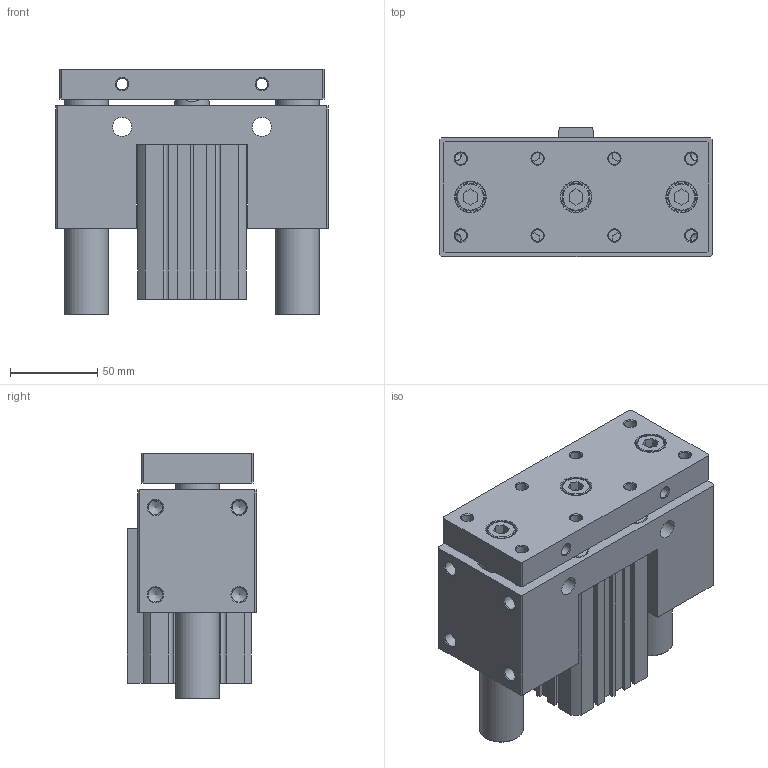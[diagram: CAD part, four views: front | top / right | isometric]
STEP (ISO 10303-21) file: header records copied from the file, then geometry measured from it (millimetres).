
FILE_DESCRIPTION((''),'2;1');
FILE_NAME('I:\3D電子目錄\氣缸\JCB\JCB\JCB50-S\JCB50x50-S.stp','2007-08-30T16:31:17',('Administrator'),(''),'Autodesk Inventor 11','Autodesk Inventor 11','');
FILE_SCHEMA(('AUTOMOTIVE_DESIGN { 1 0 10303 214 1 1 1 1 }'));
Length unit declared in the file: millimetre
Products named in the file (1): JCB50
Bounding box: 156 x 74 x 140.5 mm (x, y, z)
Volume: 998691 mm3; surface area: 180122 mm2
Topology: 3 solids, 3 shells, 328 faces, 786 edges, 510 vertices
Faces by surface type: plane 190, cylinder 58, cone 45, bspline 31, torus 4
Full cylindrical faces by diameter (mm): 2.7 x2, 6.8 x4, 8.376 x4, 11 x8, 13 x4, 14 x4, 16 x3, 17.5 x3, 20 x1, 21 x1, 25 x2, 28 x2, 37 x1, 38 x1, 52 x4, 55 x2
Entity records: 9390 total; most frequent: CARTESIAN_POINT 2294, DIRECTION 1434, ORIENTED_EDGE 1264, EDGE_CURVE 632, EDGE_LOOP 536, AXIS2_PLACEMENT_3D 512, VERTEX_POINT 480, VECTOR 410
